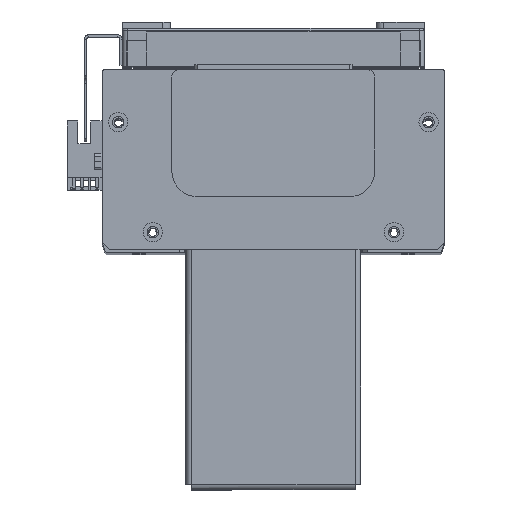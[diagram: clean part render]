
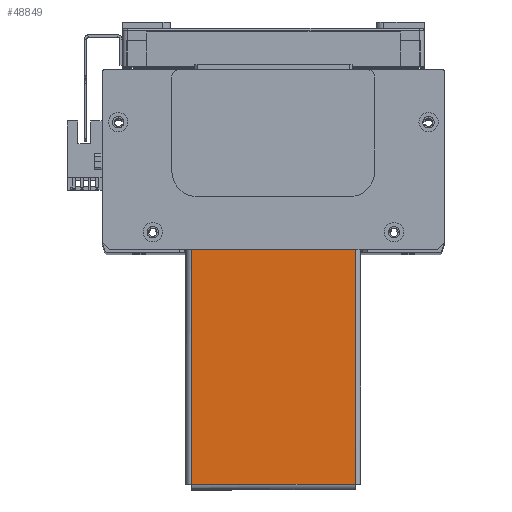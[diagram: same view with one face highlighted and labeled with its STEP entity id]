
A CAD part, top view. The second image highlights one B-rep face of the part: STEP entity #48849.
In plain terms, the highlighted planar face has unit normal (0, 0, 1) as drawn and (0, -1, 0) by its records, which use the part's own axes.
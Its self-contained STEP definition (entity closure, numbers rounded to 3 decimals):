
#14289 = EDGE_CURVE ( 'NONE', #57827, #57806, #29231, .T. ) ;
#14306 = EDGE_CURVE ( 'NONE', #57761, #57806, #29250, .T. ) ;
#14312 = EDGE_CURVE ( 'NONE', #57751, #57827, #29269, .T. ) ;
#14326 = EDGE_CURVE ( 'NONE', #57761, #57751, #29314, .T. ) ;
#15056 = EDGE_LOOP ( 'NONE', ( #59929, #59934, #59948, #59912 ) ) ;
#22173 = FACE_OUTER_BOUND ( 'NONE', #15056, .T. ) ;
#29220 = VECTOR ( 'NONE', #54926, 1000. ) ;
#29231 = LINE ( 'NONE', #54923, #29220 ) ;
#29250 = LINE ( 'NONE', #54995, #29252 ) ;
#29252 = VECTOR ( 'NONE', #55016, 1000. ) ;
#29269 = LINE ( 'NONE', #55072, #29270 ) ;
#29270 = VECTOR ( 'NONE', #55075, 1000. ) ;
#29298 = VECTOR ( 'NONE', #55151, 1000. ) ;
#29314 = LINE ( 'NONE', #55130, #29298 ) ;
#46977 = CARTESIAN_POINT ( 'NONE',  ( -2., -1.5, 32.263 ) ) ;
#47004 = CARTESIAN_POINT ( 'NONE',  ( -94.763, -1.5, 32.263 ) ) ;
#47063 = CARTESIAN_POINT ( 'NONE',  ( -2., -1.5, -32.263 ) ) ;
#47127 = CARTESIAN_POINT ( 'NONE',  ( -94.763, -1.5, -32.263 ) ) ;
#48849 = ADVANCED_FACE ( 'NONE', ( #22173 ), #61117, .F. ) ;
#54583 = AXIS2_PLACEMENT_3D ( 'NONE', #61118, #61183, #61177 ) ;
#54923 = CARTESIAN_POINT ( 'NONE',  ( -94.793, -1.5, -32.263 ) ) ;
#54926 = DIRECTION ( 'NONE',  ( 1., 0., 0. ) ) ;
#54995 = CARTESIAN_POINT ( 'NONE',  ( -2., -1.5, 34.5 ) ) ;
#55016 = DIRECTION ( 'NONE',  ( 0., 0., -1. ) ) ;
#55072 = CARTESIAN_POINT ( 'NONE',  ( -94.763, -1.5, 32.293 ) ) ;
#55075 = DIRECTION ( 'NONE',  ( 0., 0., -1. ) ) ;
#55130 = CARTESIAN_POINT ( 'NONE',  ( 94.793, -1.5, 32.263 ) ) ;
#55151 = DIRECTION ( 'NONE',  ( -1., 0., 0. ) ) ;
#57751 = VERTEX_POINT ( 'NONE', #47004 ) ;
#57761 = VERTEX_POINT ( 'NONE', #46977 ) ;
#57806 = VERTEX_POINT ( 'NONE', #47063 ) ;
#57827 = VERTEX_POINT ( 'NONE', #47127 ) ;
#59912 = ORIENTED_EDGE ( 'NONE', *, *, #14312, .T. ) ;
#59929 = ORIENTED_EDGE ( 'NONE', *, *, #14289, .T. ) ;
#59934 = ORIENTED_EDGE ( 'NONE', *, *, #14306, .F. ) ;
#59948 = ORIENTED_EDGE ( 'NONE', *, *, #14326, .T. ) ;
#61117 = PLANE ( 'NONE',  #54583 ) ;
#61118 = CARTESIAN_POINT ( 'NONE',  ( 0., -1.5, 0. ) ) ;
#61177 = DIRECTION ( 'NONE',  ( 0., 0., 1. ) ) ;
#61183 = DIRECTION ( 'NONE',  ( 0., 1., 0. ) ) ;
